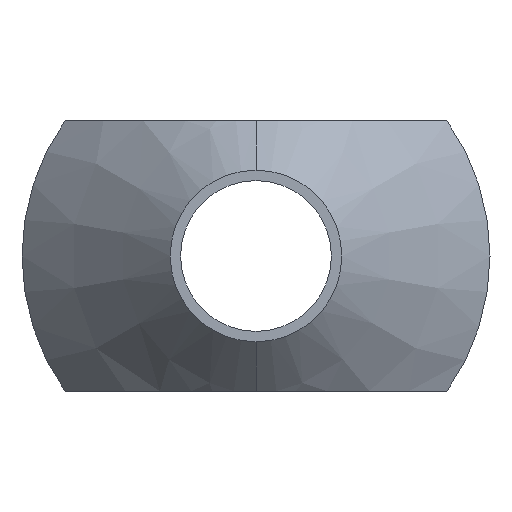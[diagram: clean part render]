
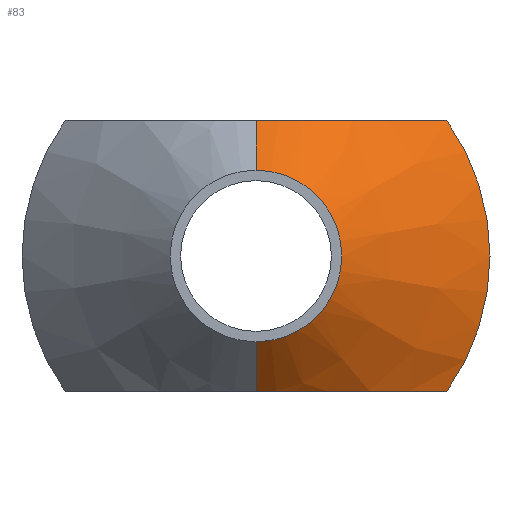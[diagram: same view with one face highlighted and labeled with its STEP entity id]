
A CAD part, front view. The second image highlights one B-rep face of the part: STEP entity #83.
In plain terms, the highlighted conical face has half-angle 45 degrees and reference radius 1.65 mm.
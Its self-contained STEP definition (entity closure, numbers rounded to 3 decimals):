
#5 = EDGE_CURVE ( 'NONE', #805, #470, #44, .T. ) ;
#7 = EDGE_CURVE ( 'NONE', #741, #805, #340, .T. ) ;
#24 = ORIENTED_EDGE ( 'NONE', *, *, #871, .T. ) ;
#29 = CARTESIAN_POINT ( 'NONE',  ( 0.702, 11.238, 2.6 ) ) ;
#32 = CARTESIAN_POINT ( 'NONE',  ( 1.364, 11.483, -2.6 ) ) ;
#44 = B_SPLINE_CURVE_WITH_KNOTS ( 'NONE', 3,
 ( #881, #814, #740, #29, #529, #103, #605, #169, #673, #243, #744, #319, #386, #458 ),
 .UNSPECIFIED., .F., .F.,
 ( 4, 2, 2, 2, 2, 2, 4 ),
 ( 0.009, 0.01, 0.01, 0.011, 0.011, 0.012, 0.013 ),
 .UNSPECIFIED. ) ;
#45 = EDGE_CURVE ( 'NONE', #749, #741, #771, .T. ) ;
#83 = ADVANCED_FACE ( 'NONE', ( #290 ), #768, .T. ) ;
#87 = ORIENTED_EDGE ( 'NONE', *, *, #45, .F. ) ;
#103 = CARTESIAN_POINT ( 'NONE',  ( 1.201, 11.41, 2.6 ) ) ;
#106 = CARTESIAN_POINT ( 'NONE',  ( 0.871, 11.288, -2.6 ) ) ;
#111 = CARTESIAN_POINT ( 'NONE',  ( 3.673, 13.05, -2.6 ) ) ;
#119 = CARTESIAN_POINT ( 'NONE',  ( 0., 10.2, -1.65 ) ) ;
#131 = CARTESIAN_POINT ( 'NONE',  ( 0., 10.2, 0. ) ) ;
#132 = ORIENTED_EDGE ( 'NONE', *, *, #918, .F. ) ;
#162 = CARTESIAN_POINT ( 'NONE',  ( 0., 11.15, -2.6 ) ) ;
#166 = CARTESIAN_POINT ( 'NONE',  ( 0., 10.2, 1.65 ) ) ;
#169 = CARTESIAN_POINT ( 'NONE',  ( 1.679, 11.642, 2.6 ) ) ;
#174 = CARTESIAN_POINT ( 'NONE',  ( 0.355, 11.169, -2.6 ) ) ;
#220 = DIRECTION ( 'NONE',  ( 0., 0., -1. ) ) ;
#240 = CARTESIAN_POINT ( 'NONE',  ( 3.673, 13.05, 2.6 ) ) ;
#241 = EDGE_LOOP ( 'NONE', ( #87, #24, #132, #493, #307, #909 ) ) ;
#243 = CARTESIAN_POINT ( 'NONE',  ( 2.282, 12.001, 2.6 ) ) ;
#246 = CARTESIAN_POINT ( 'NONE',  ( 0., 11.15, -2.6 ) ) ;
#253 = CARTESIAN_POINT ( 'NONE',  ( 0., 11.15, 2.6 ) ) ;
#290 = FACE_OUTER_BOUND ( 'NONE', #241, .T. ) ;
#295 = VECTOR ( 'NONE', #818, 1000. ) ;
#296 = CARTESIAN_POINT ( 'NONE',  ( 0., 13.05, 0. ) ) ;
#307 = ORIENTED_EDGE ( 'NONE', *, *, #5, .F. ) ;
#312 = B_SPLINE_CURVE_WITH_KNOTS ( 'NONE', 3,
 ( #672, #667, #318, #817, #385, #883, #457, #32, #534, #106, #610, #174, #677, #246 ),
 .UNSPECIFIED., .F., .F.,
 ( 4, 2, 2, 2, 2, 2, 4 ),
 ( 0.02, 0.021, 0.022, 0.023, 0.023, 0.024, 0.024 ),
 .UNSPECIFIED. ) ;
#318 = CARTESIAN_POINT ( 'NONE',  ( 3.129, 12.614, -2.6 ) ) ;
#319 = CARTESIAN_POINT ( 'NONE',  ( 3.129, 12.614, 2.6 ) ) ;
#324 = CARTESIAN_POINT ( 'NONE',  ( 0., 10.2, 0. ) ) ;
#335 = EDGE_CURVE ( 'NONE', #813, #470, #460, .T. ) ;
#340 = LINE ( 'NONE', #453, #295 ) ;
#385 = CARTESIAN_POINT ( 'NONE',  ( 2.282, 12.001, -2.6 ) ) ;
#386 = CARTESIAN_POINT ( 'NONE',  ( 3.403, 12.829, 2.6 ) ) ;
#439 = AXIS2_PLACEMENT_3D ( 'NONE', #296, #720, #220 ) ;
#453 = CARTESIAN_POINT ( 'NONE',  ( 0., 10.2, 1.65 ) ) ;
#457 = CARTESIAN_POINT ( 'NONE',  ( 1.679, 11.642, -2.6 ) ) ;
#458 = CARTESIAN_POINT ( 'NONE',  ( 3.673, 13.05, 2.6 ) ) ;
#460 = CIRCLE ( 'NONE', #439, 4.5 ) ;
#463 = LINE ( 'NONE', #119, #826 ) ;
#470 = VERTEX_POINT ( 'NONE', #240 ) ;
#493 = ORIENTED_EDGE ( 'NONE', *, *, #335, .T. ) ;
#529 = CARTESIAN_POINT ( 'NONE',  ( 0.871, 11.288, 2.6 ) ) ;
#534 = CARTESIAN_POINT ( 'NONE',  ( 1.201, 11.41, -2.6 ) ) ;
#605 = CARTESIAN_POINT ( 'NONE',  ( 1.364, 11.483, 2.6 ) ) ;
#610 = CARTESIAN_POINT ( 'NONE',  ( 0.702, 11.238, -2.6 ) ) ;
#614 = DIRECTION ( 'NONE',  ( 0., -1., 0. ) ) ;
#631 = DIRECTION ( 'NONE',  ( 0., 0., 1. ) ) ;
#667 = CARTESIAN_POINT ( 'NONE',  ( 3.403, 12.829, -2.6 ) ) ;
#672 = CARTESIAN_POINT ( 'NONE',  ( 3.673, 13.05, -2.6 ) ) ;
#673 = CARTESIAN_POINT ( 'NONE',  ( 1.832, 11.729, 2.6 ) ) ;
#677 = CARTESIAN_POINT ( 'NONE',  ( 0.176, 11.15, -2.6 ) ) ;
#717 = VERTEX_POINT ( 'NONE', #162 ) ;
#720 = DIRECTION ( 'NONE',  ( 0., -1., 0. ) ) ;
#740 = CARTESIAN_POINT ( 'NONE',  ( 0.355, 11.169, 2.6 ) ) ;
#741 = VERTEX_POINT ( 'NONE', #166 ) ;
#742 = CARTESIAN_POINT ( 'NONE',  ( 0., 10.2, -1.65 ) ) ;
#744 = CARTESIAN_POINT ( 'NONE',  ( 2.568, 12.2, 2.6 ) ) ;
#749 = VERTEX_POINT ( 'NONE', #742 ) ;
#765 = DIRECTION ( 'NONE',  ( 0., 1., 0. ) ) ;
#768 = CONICAL_SURFACE ( 'NONE', #855, 1.65, 0.785 ) ;
#771 = CIRCLE ( 'NONE', #916, 1.65 ) ;
#805 = VERTEX_POINT ( 'NONE', #253 ) ;
#813 = VERTEX_POINT ( 'NONE', #111 ) ;
#814 = CARTESIAN_POINT ( 'NONE',  ( 0.176, 11.15, 2.6 ) ) ;
#817 = CARTESIAN_POINT ( 'NONE',  ( 2.568, 12.2, -2.6 ) ) ;
#818 = DIRECTION ( 'NONE',  ( 0., 0.707, 0.707 ) ) ;
#822 = DIRECTION ( 'NONE',  ( 0., 0., -1. ) ) ;
#826 = VECTOR ( 'NONE', #893, 1000. ) ;
#855 = AXIS2_PLACEMENT_3D ( 'NONE', #131, #765, #631 ) ;
#871 = EDGE_CURVE ( 'NONE', #749, #717, #463, .T. ) ;
#881 = CARTESIAN_POINT ( 'NONE',  ( 0., 11.15, 2.6 ) ) ;
#883 = CARTESIAN_POINT ( 'NONE',  ( 1.832, 11.729, -2.6 ) ) ;
#893 = DIRECTION ( 'NONE',  ( 0., 0.707, -0.707 ) ) ;
#909 = ORIENTED_EDGE ( 'NONE', *, *, #7, .F. ) ;
#916 = AXIS2_PLACEMENT_3D ( 'NONE', #324, #614, #822 ) ;
#918 = EDGE_CURVE ( 'NONE', #813, #717, #312, .T. ) ;
